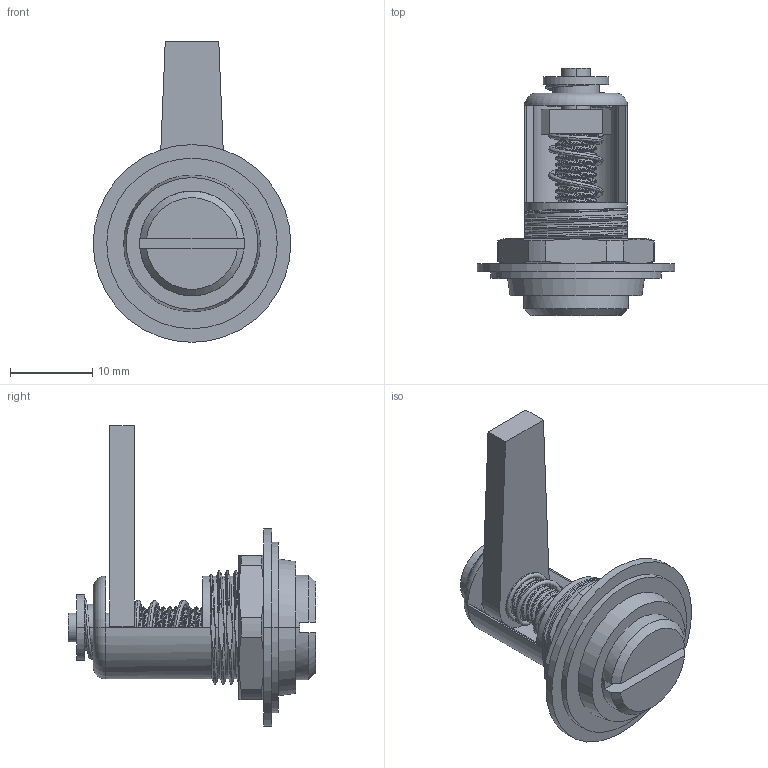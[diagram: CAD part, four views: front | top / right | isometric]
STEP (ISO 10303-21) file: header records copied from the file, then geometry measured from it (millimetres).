
FILE_DESCRIPTION((''),'2;1');
FILE_NAME('ZU_ASM','2016-07-06T',('master'),(''),'PRO/ENGINEER BY PARAMETRIC TECHNOLOGY CORPORATION, 2009060','PRO/ENGINEER BY PARAMETRIC TECHNOLOGY CORPORATION, 2009060','');
FILE_SCHEMA(('CONFIG_CONTROL_DESIGN'));
Length unit declared in the file: millimetre
Products named in the file (10): SUOXIN; SPRING_AF0; GANGSHAN; JIZHUO; TAO; DIANQUAN; CHIDIAN; LUOMU; SPRING_1_AF0; ZU_ASM
Assembly tree (9 placements, depth 2):
  ZU_ASM
    SUOXIN
    SPRING_AF0
    GANGSHAN
    JIZHUO
    TAO
    DIANQUAN
    CHIDIAN
    LUOMU
    SPRING_1_AF0
Bounding box: 24 x 30 x 36.5 mm (x, y, z)
Volume: 3533.2 mm3; surface area: 5668.8 mm2
Topology: 9 solids, 9 shells, 403 faces, 952 edges, 571 vertices
Faces by surface type: bspline 167, cylinder 112, plane 90, cone 30, torus 4
Entity records: 37772 total; most frequent: CARTESIAN_POINT 29580, ORIENTED_EDGE 1900, DIRECTION 1287, EDGE_CURVE 950, VERTEX_POINT 571, AXIS2_PLACEMENT_3D 510, B_SPLINE_CURVE_WITH_KNOTS 428, EDGE_LOOP 421
